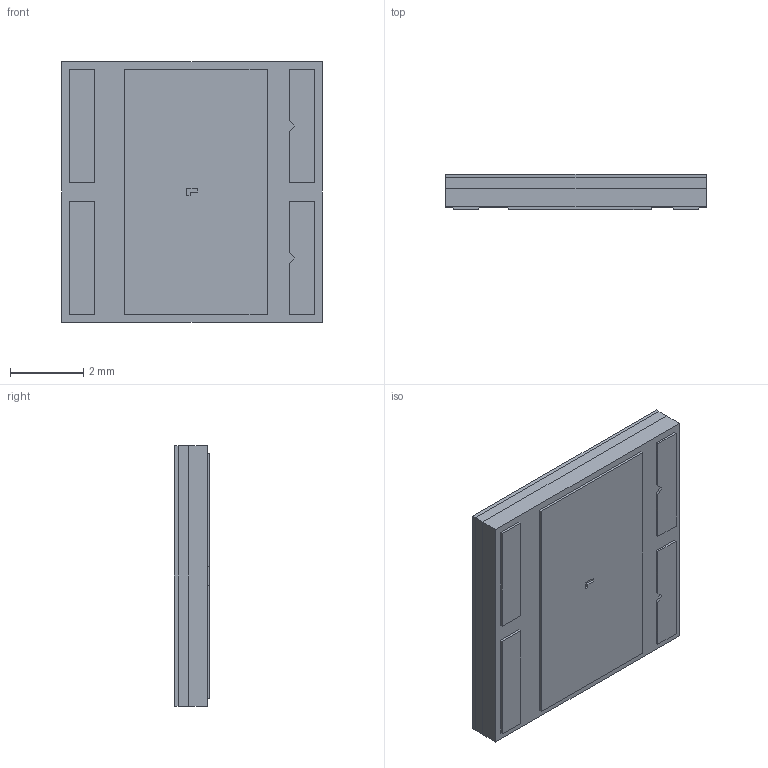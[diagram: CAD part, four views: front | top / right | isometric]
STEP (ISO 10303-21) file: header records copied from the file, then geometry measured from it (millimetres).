
FILE_DESCRIPTION (( 'STEP AP203' ), '1' );
FILE_NAME ('PM.STEP', '2024-01-19T06:16:34', ( '' ), ( '' ), 'SwSTEP 2.0', 'SolidWorks 2016', '' );
FILE_SCHEMA (( 'CONFIG_CONTROL_DESIGN' ));
Length unit declared in the file: millimetre
Products named in the file (1): PM
Bounding box: 7.1 x 0.96 x 7.1 mm (x, y, z)
Volume: 47.4 mm3; surface area: 341.4 mm2
Topology: 4 solids, 4 shells, 66 faces, 156 edges, 104 vertices
Faces by surface type: plane 66
Entity records: 1935 total; most frequent: CARTESIAN_POINT 327, ORIENTED_EDGE 312, DIRECTION 290, LINE 156, EDGE_CURVE 156, VECTOR 156, VERTEX_POINT 104, EDGE_LOOP 74
